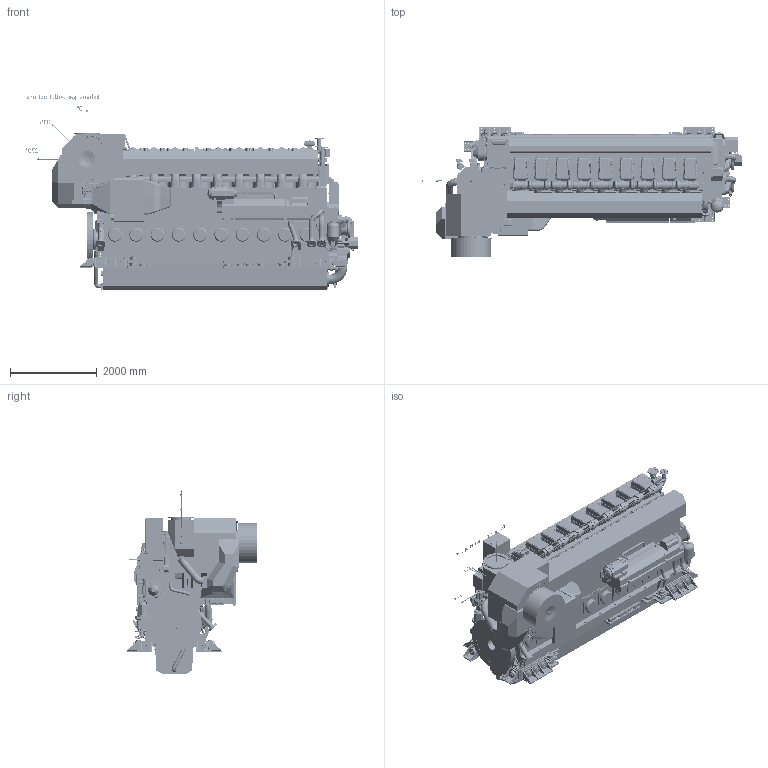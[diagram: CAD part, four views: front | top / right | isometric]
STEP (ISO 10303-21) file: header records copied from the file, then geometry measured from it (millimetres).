
FILE_DESCRIPTION(/* description */ (''),/* implementation_level */ '2;1');
FILE_NAME(/* name */ 'DAAF385167_A-Outline drawing.stp',/* time_stamp */ '2021-12-30T14:24:18+02:00',/* author */ (''),/* organization */ (''),/* preprocessor_version */ 'ST-DEVELOPER v16.7',/* originating_system */ 'SIEMENS PLM Software NX 1915',/* authorisation */ '');
FILE_SCHEMA (('AUTOMOTIVE_DESIGN { 1 0 10303 214 3 1 1 1 }'));
Products named in the file (68): 001860179-A_HOLLOW BAR; PAAC000444--_HEXAGON HEAD BOLT; PAAF078236--_COVER; PAAF976976--_Cylinder head covers 9L; PAAF193483--_BOOSTER MOTOR; PABA279509--_Flywheel L3X; PAAF078241--_COVER; PAAF906204--_SHUT-DOWN MECHANISM; PAAF093585--_STARTING AIR PIPES; PABA065852--_Gas feed pipe from roof; PAAF243367--_GOVERNOR; PAAF093819--_WATER CONNECTION; PAAF270351--_EQUIPMENT; PAAF087122--_LEAK FUEL PIPES; PAAF078074--_TURNING DEVICE; PAAF906214--_ELECTRICAL EQUIPMENT; PAAF261809--_LUBRICATING OIL FILTER; PAAF243671--_PUMP COVER; PAAF331859--_CLEANING DEVICE; PAAF063771--_COVERS; PABA036864--_Cylinder heads multiducts cylinder liner; PAAF895907--_COVERS; PAAF078622--_LT-WATER PIPES; PAAF675626--_OIL MIST DETECTOR; PAAF078688--_PILOT FUEL LINE; PAAF078125--_A_COVER_main_fuel_pipes; PABA066964--_Double wall gas vent system; PAAF087114--_LEAK FUEL SYSTEM; PAAF087082--_A_LEAK FUEL PIPES; PABA181135--_LT-water from stand-by pump; PAAF291916--_INTERMEDIATE GEAR; PAAF271372--_MOTOR; PAAF243686--_CENTRIFUGAL FILTER; PAAF977365--_Electrical equipment for side cover; PAAF243393--_GOVERNOR; PABA073837--_WASTEGATE PIPE ABB155 IN FWE 0 AND 90 DEG; PAAF909498--_LOCAL CONTROL PANEL; PAAF243623--_FUEL PIPES; PAAF087111--_LEAK FUEL SYSTEM; PAAF064319--_COVERS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
Assembly tree (88 placements, depth 4):
  DAAF385167_A-Outline drawing
    PABA330993--_Turbo options
    PABA335656--_W9L34DFC-TCD-WET
      PAAF093447--_SEPARATOR CONNECTIONS
      PAAF090578--_LUBRICATING OIL PIPES
      PAAF087136--_LUBRICATING OIL PIPES
      PAAF087145--_OIL SUCTION PIPE
      PAAF259781--_WET SUMP
      PAAF975926--_main gas admission valve  x9
      PAAF247479--_FRAME
      PAAF975946--_gas pipe between cylinders  x8
      PAAF906213--_NITROGEN GAS PIPE
      PAAF297128--_COVERS
      PAAF415151--_TURBOCHARGER
      PAAF238216--_CRANKSHAFT
      PAAF243352--_OIL PIPE
      PAAF247485--_LUBRICATING OIL PUMP
      PAAF074388--_END COVER
      PAAF066775--_INSULATING BOX
      PAAF978290--_Covers top shields 9L
      PAAF497278--_LUBRICATING OIL PIPES
      PAAF078620--_LT-WATER PIPES
      PAAF679607--_AIR INLET BOX
      PAAF243662--_LUBE OIL MODULE
      PAAF063633--_ENGINE BLOCK
      PAAF299715--_TURBOCHARGER BRACKET
      PAAF064319--_COVERS
      PAAF087111--_LEAK FUEL SYSTEM
      PAAF243623--_FUEL PIPES
      PAAF909498--_LOCAL CONTROL PANEL
      PABA073837--_WASTEGATE PIPE ABB155 IN FWE 0 AND 90 DEG
      PAAF243393--_GOVERNOR
      PAAF977365--_Electrical equipment for side cover
      PAAF243686--_CENTRIFUGAL FILTER
      PAAF271372--_MOTOR
      PAAF291916--_INTERMEDIATE GEAR
      PABA181135--_LT-water from stand-by pump
      PAAF087082--_A_LEAK FUEL PIPES
      PAAF087114--_LEAK FUEL SYSTEM
      PABA066964--_Double wall gas vent system
      PAAF078125--_A_COVER_main_fuel_pipes
      PAAF078688--_PILOT FUEL LINE
      PAAF675626--_OIL MIST DETECTOR
      PAAF078622--_LT-WATER PIPES
      PAAF895907--_COVERS
      PABA036864--_Cylinder heads multiducts cylinder liner
      PAAF063771--_COVERS
      PAAF331859--_CLEANING DEVICE
      PAAF243671--_PUMP COVER
      PAAF261809--_LUBRICATING OIL FILTER
      PAAF906214--_ELECTRICAL EQUIPMENT
      PAAF078074--_TURNING DEVICE
      PAAF087122--_LEAK FUEL PIPES
      PAAF270351--_EQUIPMENT
      PAAF093819--_WATER CONNECTION
      PAAF243367--_GOVERNOR
      PABA065852--_Gas feed pipe from roof
      PAAF093585--_STARTING AIR PIPES
      PAAF906204--_SHUT-DOWN MECHANISM
      PAAF078241--_COVER
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Bounding box: 7648.02 x 3007.57 x 4500.18 mm (x, y, z)
Volume: 19295839585.4 mm3; surface area: 278392494.4 mm2
Topology: 734 solids, 743 shells, 22179 faces, 54041 edges, 34625 vertices
Faces by surface type: plane 11721, cylinder 5639, bspline 2164, cone 1562, extrusion 549, torus 496, sphere 43, revolution 5
Full cylindrical faces by diameter (mm): 1 x9, 3 x3, 4 x2, 6 x8, 8 x54, 9.6 x1, 10 x6, 10.164 x1, 10.227 x1, 11 x6, 11.908 x1, 12 x25, 12.095 x1, 12.3 x1, 13 x3, 13.2 x4, 13.5 x4, 14 x213, 15 x12, 15.5 x4, 15.6 x4, 15.7 x4, 16 x113, 16.2 x3, 17 x1, 18 x496, 18.5 x2, 19.869 x2, 20 x20, 21 x32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
Entity records: 779267 total; most frequent: CARTESIAN_POINT 295602, ORIENTED_EDGE 95368, DIRECTION 94368, EDGE_CURVE 47684, AXIS2_PLACEMENT_3D 33086, VERTEX_POINT 32451, VECTOR 28191, EDGE_LOOP 27756
